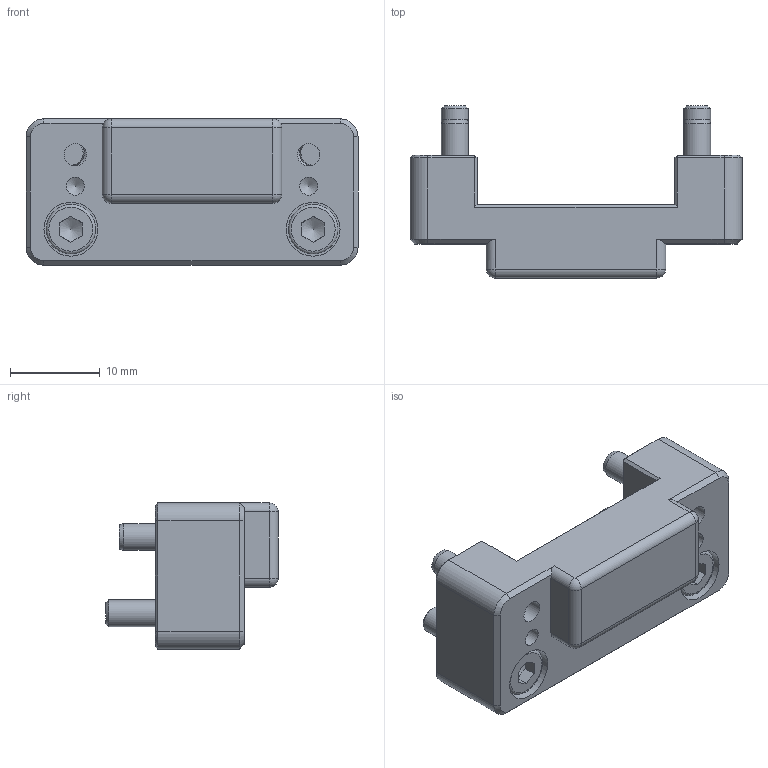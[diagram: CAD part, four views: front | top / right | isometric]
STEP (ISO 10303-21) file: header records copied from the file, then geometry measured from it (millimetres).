
FILE_DESCRIPTION(/* description */ (''),/* implementation_level */ '2;1');
FILE_NAME(/* name */ 'ZG-AP-SEK100-SHS100-U.stp',/* time_stamp */ '2024-11-13T16:08:13+01:00',/* author */ ('ysplieth'),/* organization */ (''),/* preprocessor_version */ 'ST-DEVELOPER v20',/* originating_system */ 'Autodesk Inventor 2024',/* authorisation */ '');
FILE_SCHEMA (('AUTOMOTIVE_DESIGN { 1 0 10303 214 3 1 1 }'));
Length unit declared in the file: millimetre
Products named in the file (1): Bauteil12
Bounding box: 37 x 19.2 x 16.3 mm (x, y, z)
Volume: 4599.8 mm3; surface area: 3146.8 mm2
Topology: 1 solids, 1 shells, 119 faces, 275 edges, 166 vertices
Faces by surface type: plane 63, cylinder 28, cone 20, torus 4, sphere 4
Full cylindrical faces by diameter (mm): 2 x2, 2.5 x2, 3 x6, 3.4 x2, 5.5 x2, 6 x2
Entity records: 3519 total; most frequent: CARTESIAN_POINT 613, DIRECTION 595, ORIENTED_EDGE 542, EDGE_CURVE 271, AXIS2_PLACEMENT_3D 221, VERTEX_POINT 166, LINE 153, VECTOR 153
